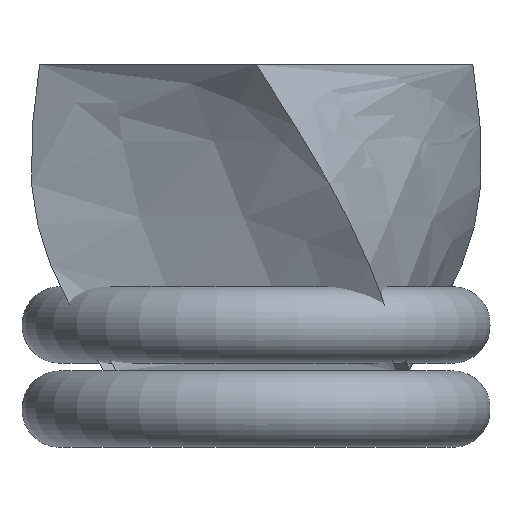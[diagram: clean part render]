
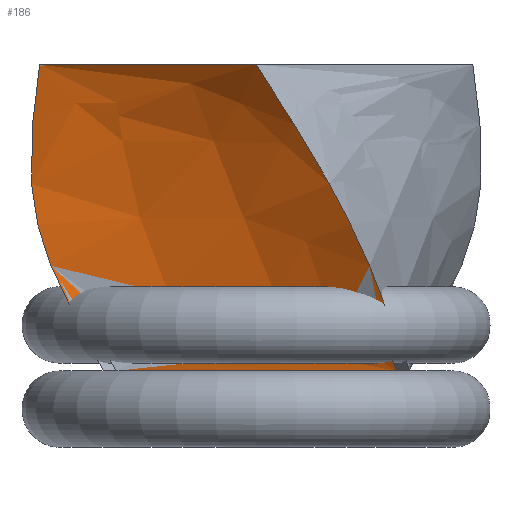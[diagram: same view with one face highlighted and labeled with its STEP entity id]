
A CAD part, left-side view. The second image highlights one B-rep face of the part: STEP entity #186.
In plain terms, the highlighted free-form (B-spline) face has degree [3, 3] with [4, 8] control points.
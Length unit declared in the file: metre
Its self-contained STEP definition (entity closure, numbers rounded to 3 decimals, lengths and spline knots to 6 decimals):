
#186 = ADVANCED_FACE( '', ( #242 ), #243, .T. );
#242 = FACE_OUTER_BOUND( '', #398, .T. );
#243 = B_SPLINE_SURFACE_WITH_KNOTS( '', 3, 3, ( ( #399, #400, #401, #402, #403, #404, #405, #406 ), ( #407, #408, #409, #410, #411, #412, #413, #414 ), ( #415, #416, #417, #418, #419, #420, #421, #422 ), ( #423, #424, #425, #426, #427, #428, #429, #430 ) ), .UNSPECIFIED., .F., .F., .F., ( 4, 4 ), ( 4, 3, 1, 4 ), ( 0., 1. ), ( -0.039123, 0., 0.5, 1. ), .UNSPECIFIED. );
#398 = EDGE_LOOP( '', ( #725, #726, #727, #728, #729, #730, #731, #732 ) );
#399 = CARTESIAN_POINT( '', ( -0.051397, 0.047839, -0.003912 ) );
#400 = CARTESIAN_POINT( '', ( -0.050931, 0.04856, -0.002608 ) );
#401 = CARTESIAN_POINT( '', ( -0.050466, 0.04928, -0.001304 ) );
#402 = CARTESIAN_POINT( '', ( -0.05, 0.05, 0. ) );
#403 = CARTESIAN_POINT( '', ( -0.04405, 0.059205, 0.016667 ) );
#404 = CARTESIAN_POINT( '', ( -0.032149, 0.077614, 0.05 ) );
#405 = CARTESIAN_POINT( '', ( -0.010716, 0.073012, 0.083333 ) );
#406 = CARTESIAN_POINT( '', ( 0., 0.070711, 0.1 ) );
#407 = CARTESIAN_POINT( '', ( -0.050211, 0.014761, -0.003912 ) );
#408 = CARTESIAN_POINT( '', ( -0.050141, 0.015396, -0.002608 ) );
#409 = CARTESIAN_POINT( '', ( -0.05007, 0.016031, -0.001304 ) );
#410 = CARTESIAN_POINT( '', ( -0.05, 0.016667, 0. ) );
#411 = CARTESIAN_POINT( '', ( -0.049101, 0.024787, 0.016667 ) );
#412 = CARTESIAN_POINT( '', ( -0.047304, 0.041026, 0.05 ) );
#413 = CARTESIAN_POINT( '', ( -0.031481, 0.045102, 0.083333 ) );
#414 = CARTESIAN_POINT( '', ( -0.02357, 0.04714, 0.1 ) );
#415 = CARTESIAN_POINT( '', ( -0.049025, -0.018318, -0.003912 ) );
#416 = CARTESIAN_POINT( '', ( -0.04935, -0.017768, -0.002608 ) );
#417 = CARTESIAN_POINT( '', ( -0.049675, -0.017217, -0.001304 ) );
#418 = CARTESIAN_POINT( '', ( -0.05, -0.016667, 0. ) );
#419 = CARTESIAN_POINT( '', ( -0.054153, -0.009632, 0.016667 ) );
#420 = CARTESIAN_POINT( '', ( -0.062459, 0.004439, 0.05 ) );
#421 = CARTESIAN_POINT( '', ( -0.052247, 0.017193, 0.083333 ) );
#422 = CARTESIAN_POINT( '', ( -0.04714, 0.02357, 0.1 ) );
#423 = CARTESIAN_POINT( '', ( -0.047839, -0.051397, -0.003912 ) );
#424 = CARTESIAN_POINT( '', ( -0.04856, -0.050931, -0.002608 ) );
#425 = CARTESIAN_POINT( '', ( -0.04928, -0.050466, -0.001304 ) );
#426 = CARTESIAN_POINT( '', ( -0.05, -0.05, 0. ) );
#427 = CARTESIAN_POINT( '', ( -0.059205, -0.04405, 0.016667 ) );
#428 = CARTESIAN_POINT( '', ( -0.077614, -0.032149, 0.05 ) );
#429 = CARTESIAN_POINT( '', ( -0.073012, -0.010716, 0.083333 ) );
#430 = CARTESIAN_POINT( '', ( -0.070711, 0., 0.1 ) );
#725 = ORIENTED_EDGE( '', *, *, #991, .T. );
#726 = ORIENTED_EDGE( '', *, *, #992, .T. );
#727 = ORIENTED_EDGE( '', *, *, #937, .T. );
#728 = ORIENTED_EDGE( '', *, *, #990, .T. );
#729 = ORIENTED_EDGE( '', *, *, #993, .T. );
#730 = ORIENTED_EDGE( '', *, *, #988, .T. );
#731 = ORIENTED_EDGE( '', *, *, #994, .F. );
#732 = ORIENTED_EDGE( '', *, *, #947, .F. );
#937 = EDGE_CURVE( '', #1020, #1025, #1027, .T. );
#947 = EDGE_CURVE( '', #1043, #1045, #1046, .T. );
#988 = EDGE_CURVE( '', #1108, #1118, #1120, .T. );
#990 = EDGE_CURVE( '', #1025, #1121, #1123, .T. );
#991 = EDGE_CURVE( '', #1043, #1124, #1125, .T. );
#992 = EDGE_CURVE( '', #1124, #1020, #1126, .T. );
#993 = EDGE_CURVE( '', #1121, #1108, #1127, .T. );
#994 = EDGE_CURVE( '', #1045, #1118, #1128, .T. );
#1020 = VERTEX_POINT( '', #1168 );
#1025 = VERTEX_POINT( '', #1179 );
#1027 = LINE( '', #1182, #1183 );
#1043 = VERTEX_POINT( '', #1216 );
#1045 = VERTEX_POINT( '', #1221 );
#1046 = B_SPLINE_CURVE_WITH_KNOTS( '', 3, ( #1222, #1223, #1224, #1225, #1226 ), .UNSPECIFIED., .F., .F., ( 4, 1, 4 ), ( 0.1, 0.5, 1. ), .UNSPECIFIED. );
#1108 = VERTEX_POINT( '', #1472 );
#1118 = VERTEX_POINT( '', #1498 );
#1120 = B_SPLINE_CURVE_WITH_KNOTS( '', 3, ( #1501, #1502, #1503, #1504, #1505 ), .UNSPECIFIED., .F., .F., ( 4, 1, 4 ), ( 0.1, 0.5, 1. ), .UNSPECIFIED. );
#1121 = VERTEX_POINT( '', #1506 );
#1123 = B_SPLINE_CURVE_WITH_KNOTS( '', 3, ( #1509, #1510, #1511, #1512 ), .UNSPECIFIED., .F., .F., ( 4, 4 ), ( 0., 0.011898 ), .UNSPECIFIED. );
#1124 = VERTEX_POINT( '', #1513 );
#1125 = B_SPLINE_CURVE_WITH_KNOTS( '', 3, ( #1514, #1515, #1516, #1517 ), .UNSPECIFIED., .F., .F., ( 4, 4 ), ( 0., 0.003866 ), .UNSPECIFIED. );
#1126 = B_SPLINE_CURVE_WITH_KNOTS( '', 3, ( #1518, #1519, #1520, #1521 ), .UNSPECIFIED., .F., .F., ( 4, 4 ), ( 0., 0.012022 ), .UNSPECIFIED. );
#1127 = B_SPLINE_CURVE_WITH_KNOTS( '', 3, ( #1522, #1523, #1524, #1525 ), .UNSPECIFIED., .F., .F., ( 4, 4 ), ( 0.049681, 0.054299 ), .UNSPECIFIED. );
#1128 = LINE( '', #1526, #1527 );
#1168 = CARTESIAN_POINT( '', ( -0.05, 0.045796, 0. ) );
#1179 = CARTESIAN_POINT( '', ( -0.05, -0.045797, 0. ) );
#1182 = CARTESIAN_POINT( '', ( -0.05, 0.05, 0. ) );
#1183 = VECTOR( '', #1748, 1. );
#1216 = CARTESIAN_POINT( '', ( -0.046411, 0.055477, 0.01 ) );
#1221 = CARTESIAN_POINT( '', ( 0., 0.070711, 0.1 ) );
#1222 = CARTESIAN_POINT( '', ( -0.046411, 0.055477, 0.01 ) );
#1223 = CARTESIAN_POINT( '', ( -0.041574, 0.062656, 0.023333 ) );
#1224 = CARTESIAN_POINT( '', ( -0.030005, 0.077154, 0.053333 ) );
#1225 = CARTESIAN_POINT( '', ( -0.010716, 0.073012, 0.083333 ) );
#1226 = CARTESIAN_POINT( '', ( 0., 0.070711, 0.1 ) );
#1472 = CARTESIAN_POINT( '', ( -0.055477, -0.046411, 0.01 ) );
#1498 = CARTESIAN_POINT( '', ( -0.070711, 0., 0.1 ) );
#1501 = CARTESIAN_POINT( '', ( -0.055477, -0.046411, 0.01 ) );
#1502 = CARTESIAN_POINT( '', ( -0.062656, -0.041574, 0.023333 ) );
#1503 = CARTESIAN_POINT( '', ( -0.077154, -0.030005, 0.053333 ) );
#1504 = CARTESIAN_POINT( '', ( -0.073012, -0.010716, 0.083333 ) );
#1505 = CARTESIAN_POINT( '', ( -0.070711, 0., 0.1 ) );
#1506 = CARTESIAN_POINT( '', ( -0.055067, -0.041811, 0.01 ) );
#1509 = CARTESIAN_POINT( '', ( -0.05, -0.045797, 0. ) );
#1510 = CARTESIAN_POINT( '', ( -0.051711, -0.044482, 0.003328 ) );
#1511 = CARTESIAN_POINT( '', ( -0.053414, -0.043161, 0.006658 ) );
#1512 = CARTESIAN_POINT( '', ( -0.055067, -0.041811, 0.01 ) );
#1513 = CARTESIAN_POINT( '', ( -0.046753, 0.051626, 0.01 ) );
#1514 = CARTESIAN_POINT( '', ( -0.046411, 0.055477, 0.01 ) );
#1515 = CARTESIAN_POINT( '', ( -0.046525, 0.054193, 0.01 ) );
#1516 = CARTESIAN_POINT( '', ( -0.046639, 0.052909, 0.01 ) );
#1517 = CARTESIAN_POINT( '', ( -0.046753, 0.051626, 0.01 ) );
#1518 = CARTESIAN_POINT( '', ( -0.046753, 0.051626, 0.01 ) );
#1519 = CARTESIAN_POINT( '', ( -0.047864, 0.049716, 0.006656 ) );
#1520 = CARTESIAN_POINT( '', ( -0.048939, 0.047761, 0.003327 ) );
#1521 = CARTESIAN_POINT( '', ( -0.05, 0.045796, 0. ) );
#1522 = CARTESIAN_POINT( '', ( -0.055067, -0.041811, 0.01 ) );
#1523 = CARTESIAN_POINT( '', ( -0.055204, -0.043344, 0.01 ) );
#1524 = CARTESIAN_POINT( '', ( -0.05534, -0.044877, 0.01 ) );
#1525 = CARTESIAN_POINT( '', ( -0.055477, -0.046411, 0.01 ) );
#1526 = CARTESIAN_POINT( '', ( 0., 0.070711, 0.1 ) );
#1527 = VECTOR( '', #1774, 1. );
#1748 = DIRECTION( '', ( 0., -1., 0. ) );
#1774 = DIRECTION( '', ( -0.707, -0.707, 0. ) );
